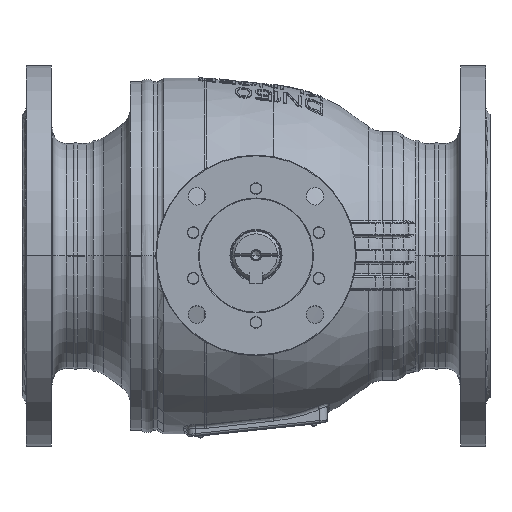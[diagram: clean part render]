
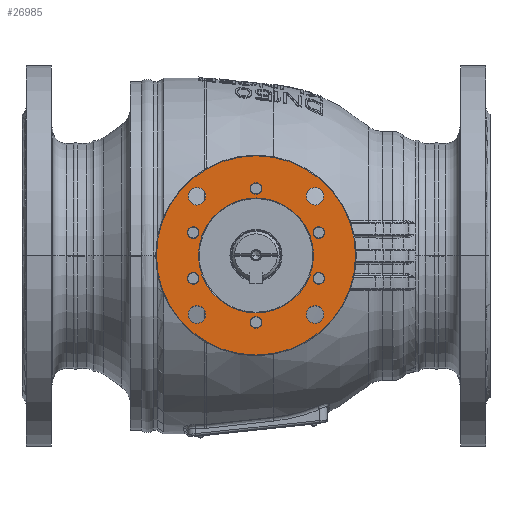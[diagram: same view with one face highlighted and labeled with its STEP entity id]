
A CAD part, top view. The second image highlights one B-rep face of the part: STEP entity #26985.
In plain terms, the highlighted planar face has unit normal (0, 0, 1).
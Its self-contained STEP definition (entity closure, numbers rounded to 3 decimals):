
#857=CARTESIAN_POINT('',(0.,0.,245.5));
#858=DIRECTION('',(0.,0.,1.));
#859=DIRECTION('',(1.,0.,0.));
#860=AXIS2_PLACEMENT_3D('',#857,#858,#859);
#862=CARTESIAN_POINT('',(0.,0.,245.5));
#863=DIRECTION('',(0.,0.,1.));
#864=DIRECTION('',(-1.,0.,0.));
#865=AXIS2_PLACEMENT_3D('',#862,#863,#864);
#867=CARTESIAN_POINT('',(44.194,44.194,245.5));
#868=DIRECTION('',(0.,0.,-1.));
#869=DIRECTION('',(-1.,0.,0.));
#870=AXIS2_PLACEMENT_3D('',#867,#868,#869);
#872=CARTESIAN_POINT('',(44.194,44.194,245.5));
#873=DIRECTION('',(0.,0.,-1.));
#874=DIRECTION('',(1.,0.,0.));
#875=AXIS2_PLACEMENT_3D('',#872,#873,#874);
#877=CARTESIAN_POINT('',(-44.194,44.194,245.5));
#878=DIRECTION('',(0.,0.,-1.));
#879=DIRECTION('',(-1.,0.,0.));
#880=AXIS2_PLACEMENT_3D('',#877,#878,#879);
#882=CARTESIAN_POINT('',(-44.194,44.194,245.5));
#883=DIRECTION('',(0.,0.,-1.));
#884=DIRECTION('',(1.,0.,0.));
#885=AXIS2_PLACEMENT_3D('',#882,#883,#884);
#887=CARTESIAN_POINT('',(-44.194,-44.194,245.5));
#888=DIRECTION('',(0.,0.,-1.));
#889=DIRECTION('',(-1.,0.,0.));
#890=AXIS2_PLACEMENT_3D('',#887,#888,#889);
#892=CARTESIAN_POINT('',(-44.194,-44.194,245.5));
#893=DIRECTION('',(0.,0.,-1.));
#894=DIRECTION('',(1.,0.,0.));
#895=AXIS2_PLACEMENT_3D('',#892,#893,#894);
#897=CARTESIAN_POINT('',(44.194,-44.194,245.5));
#898=DIRECTION('',(0.,0.,-1.));
#899=DIRECTION('',(-1.,0.,0.));
#900=AXIS2_PLACEMENT_3D('',#897,#898,#899);
#902=CARTESIAN_POINT('',(44.194,-44.194,245.5));
#903=DIRECTION('',(0.,0.,-1.));
#904=DIRECTION('',(1.,0.,0.));
#905=AXIS2_PLACEMENT_3D('',#902,#903,#904);
#907=CARTESIAN_POINT('',(46.985,17.101,245.5));
#908=DIRECTION('',(0.,0.,-1.));
#909=DIRECTION('',(-1.,0.,0.));
#910=AXIS2_PLACEMENT_3D('',#907,#908,#909);
#912=CARTESIAN_POINT('',(46.985,17.101,245.5));
#913=DIRECTION('',(0.,0.,-1.));
#914=DIRECTION('',(1.,0.,0.));
#915=AXIS2_PLACEMENT_3D('',#912,#913,#914);
#917=CARTESIAN_POINT('',(0.,50.,245.5));
#918=DIRECTION('',(0.,0.,-1.));
#919=DIRECTION('',(-1.,0.,0.));
#920=AXIS2_PLACEMENT_3D('',#917,#918,#919);
#922=CARTESIAN_POINT('',(0.,50.,245.5));
#923=DIRECTION('',(0.,0.,-1.));
#924=DIRECTION('',(1.,0.,0.));
#925=AXIS2_PLACEMENT_3D('',#922,#923,#924);
#927=CARTESIAN_POINT('',(-46.985,17.101,245.5));
#928=DIRECTION('',(0.,0.,-1.));
#929=DIRECTION('',(-1.,0.,0.));
#930=AXIS2_PLACEMENT_3D('',#927,#928,#929);
#932=CARTESIAN_POINT('',(-46.985,17.101,245.5));
#933=DIRECTION('',(0.,0.,-1.));
#934=DIRECTION('',(1.,0.,0.));
#935=AXIS2_PLACEMENT_3D('',#932,#933,#934);
#937=CARTESIAN_POINT('',(-46.985,-17.101,245.5));
#938=DIRECTION('',(0.,0.,-1.));
#939=DIRECTION('',(-1.,0.,0.));
#940=AXIS2_PLACEMENT_3D('',#937,#938,#939);
#942=CARTESIAN_POINT('',(-46.985,-17.101,245.5));
#943=DIRECTION('',(0.,0.,-1.));
#944=DIRECTION('',(1.,0.,0.));
#945=AXIS2_PLACEMENT_3D('',#942,#943,#944);
#947=CARTESIAN_POINT('',(0.,-50.,245.5));
#948=DIRECTION('',(0.,0.,-1.));
#949=DIRECTION('',(-1.,0.,0.));
#950=AXIS2_PLACEMENT_3D('',#947,#948,#949);
#952=CARTESIAN_POINT('',(0.,-50.,245.5));
#953=DIRECTION('',(0.,0.,-1.));
#954=DIRECTION('',(1.,0.,0.));
#955=AXIS2_PLACEMENT_3D('',#952,#953,#954);
#957=CARTESIAN_POINT('',(46.985,-17.101,245.5));
#958=DIRECTION('',(0.,0.,-1.));
#959=DIRECTION('',(-1.,0.,0.));
#960=AXIS2_PLACEMENT_3D('',#957,#958,#959);
#962=CARTESIAN_POINT('',(46.985,-17.101,245.5));
#963=DIRECTION('',(0.,0.,-1.));
#964=DIRECTION('',(1.,0.,0.));
#965=AXIS2_PLACEMENT_3D('',#962,#963,#964);
#967=CARTESIAN_POINT('',(0.,0.,245.5));
#968=DIRECTION('',(0.,0.,1.));
#969=DIRECTION('',(-1.,0.,0.));
#970=AXIS2_PLACEMENT_3D('',#967,#968,#969);
#972=CARTESIAN_POINT('',(0.,0.,245.5));
#973=DIRECTION('',(0.,0.,1.));
#974=DIRECTION('',(1.,0.,0.));
#975=AXIS2_PLACEMENT_3D('',#972,#973,#974);
#24954=CARTESIAN_POINT('',(37.694,44.194,245.5));
#24955=CARTESIAN_POINT('',(50.694,44.194,245.5));
#24956=VERTEX_POINT('',#24954);
#24957=VERTEX_POINT('',#24955);
#24962=CARTESIAN_POINT('',(-50.694,44.194,245.5));
#24963=CARTESIAN_POINT('',(-37.694,44.194,245.5));
#24964=VERTEX_POINT('',#24962);
#24965=VERTEX_POINT('',#24963);
#24970=CARTESIAN_POINT('',(-50.694,-44.194,245.5));
#24971=CARTESIAN_POINT('',(-37.694,-44.194,245.5));
#24972=VERTEX_POINT('',#24970);
#24973=VERTEX_POINT('',#24971);
#24978=CARTESIAN_POINT('',(37.694,-44.194,245.5));
#24979=CARTESIAN_POINT('',(50.694,-44.194,245.5));
#24980=VERTEX_POINT('',#24978);
#24981=VERTEX_POINT('',#24979);
#24998=CARTESIAN_POINT('',(-43.,0.,245.5));
#24999=CARTESIAN_POINT('',(43.,0.,245.5));
#25000=VERTEX_POINT('',#24998);
#25001=VERTEX_POINT('',#24999);
#25002=CARTESIAN_POINT('',(42.635,17.101,245.5));
#25003=CARTESIAN_POINT('',(51.335,17.101,245.5));
#25004=VERTEX_POINT('',#25002);
#25005=VERTEX_POINT('',#25003);
#25006=CARTESIAN_POINT('',(-4.35,50.,245.5));
#25007=CARTESIAN_POINT('',(4.35,50.,245.5));
#25008=VERTEX_POINT('',#25006);
#25009=VERTEX_POINT('',#25007);
#25010=CARTESIAN_POINT('',(-51.335,17.101,245.5));
#25011=CARTESIAN_POINT('',(-42.635,17.101,245.5));
#25012=VERTEX_POINT('',#25010);
#25013=VERTEX_POINT('',#25011);
#25014=CARTESIAN_POINT('',(-51.335,-17.101,245.5));
#25015=CARTESIAN_POINT('',(-42.635,-17.101,245.5));
#25016=VERTEX_POINT('',#25014);
#25017=VERTEX_POINT('',#25015);
#25018=CARTESIAN_POINT('',(-4.35,-50.,245.5));
#25019=CARTESIAN_POINT('',(4.35,-50.,245.5));
#25020=VERTEX_POINT('',#25018);
#25021=VERTEX_POINT('',#25019);
#25022=CARTESIAN_POINT('',(42.635,-17.101,245.5));
#25023=CARTESIAN_POINT('',(51.335,-17.101,245.5));
#25024=VERTEX_POINT('',#25022);
#25025=VERTEX_POINT('',#25023);
#25026=CARTESIAN_POINT('',(74.5,0.,245.5));
#25027=CARTESIAN_POINT('',(-74.5,0.,245.5));
#25028=VERTEX_POINT('',#25026);
#25029=VERTEX_POINT('',#25027);
#26910=CARTESIAN_POINT('',(0.,0.,245.5));
#26911=DIRECTION('',(0.,0.,-1.));
#26912=DIRECTION('',(-1.,0.,0.));
#26913=AXIS2_PLACEMENT_3D('',#26910,#26911,#26912);
#26914=PLANE('',#26913);
#26916=ORIENTED_EDGE('',*,*,#26915,.F.);
#26918=ORIENTED_EDGE('',*,*,#26917,.F.);
#26919=EDGE_LOOP('',(#26916,#26918));
#26920=FACE_OUTER_BOUND('',#26919,.F.);
#26922=ORIENTED_EDGE('',*,*,#26921,.F.);
#26924=ORIENTED_EDGE('',*,*,#26923,.F.);
#26925=EDGE_LOOP('',(#26922,#26924));
#26926=FACE_BOUND('',#26925,.F.);
#26928=ORIENTED_EDGE('',*,*,#26927,.F.);
#26930=ORIENTED_EDGE('',*,*,#26929,.F.);
#26931=EDGE_LOOP('',(#26928,#26930));
#26932=FACE_BOUND('',#26931,.F.);
#26934=ORIENTED_EDGE('',*,*,#26933,.F.);
#26936=ORIENTED_EDGE('',*,*,#26935,.F.);
#26937=EDGE_LOOP('',(#26934,#26936));
#26938=FACE_BOUND('',#26937,.F.);
#26940=ORIENTED_EDGE('',*,*,#26939,.F.);
#26942=ORIENTED_EDGE('',*,*,#26941,.F.);
#26943=EDGE_LOOP('',(#26940,#26942));
#26944=FACE_BOUND('',#26943,.F.);
#26946=ORIENTED_EDGE('',*,*,#26945,.F.);
#26948=ORIENTED_EDGE('',*,*,#26947,.F.);
#26949=EDGE_LOOP('',(#26946,#26948));
#26950=FACE_BOUND('',#26949,.F.);
#26952=ORIENTED_EDGE('',*,*,#26951,.F.);
#26954=ORIENTED_EDGE('',*,*,#26953,.F.);
#26955=EDGE_LOOP('',(#26952,#26954));
#26956=FACE_BOUND('',#26955,.F.);
#26958=ORIENTED_EDGE('',*,*,#26957,.F.);
#26960=ORIENTED_EDGE('',*,*,#26959,.F.);
#26961=EDGE_LOOP('',(#26958,#26960));
#26962=FACE_BOUND('',#26961,.F.);
#26964=ORIENTED_EDGE('',*,*,#26963,.F.);
#26966=ORIENTED_EDGE('',*,*,#26965,.F.);
#26967=EDGE_LOOP('',(#26964,#26966));
#26968=FACE_BOUND('',#26967,.F.);
#26970=ORIENTED_EDGE('',*,*,#26969,.F.);
#26972=ORIENTED_EDGE('',*,*,#26971,.F.);
#26973=EDGE_LOOP('',(#26970,#26972));
#26974=FACE_BOUND('',#26973,.F.);
#26976=ORIENTED_EDGE('',*,*,#26975,.F.);
#26978=ORIENTED_EDGE('',*,*,#26977,.F.);
#26979=EDGE_LOOP('',(#26976,#26978));
#26980=FACE_BOUND('',#26979,.F.);
#26981=ORIENTED_EDGE('',*,*,#26892,.T.);
#26982=ORIENTED_EDGE('',*,*,#26877,.T.);
#26983=EDGE_LOOP('',(#26981,#26982));
#26984=FACE_BOUND('',#26983,.F.);
#26985=ADVANCED_FACE('',(#26920,#26926,#26932,#26938,#26944,#26950,#26956,
#26962,#26968,#26974,#26980,#26984),#26914,.F.);
#861=CIRCLE('',#860,74.5);
#866=CIRCLE('',#865,74.5);
#871=CIRCLE('',#870,6.5);
#876=CIRCLE('',#875,6.5);
#881=CIRCLE('',#880,6.5);
#886=CIRCLE('',#885,6.5);
#891=CIRCLE('',#890,6.5);
#896=CIRCLE('',#895,6.5);
#901=CIRCLE('',#900,6.5);
#906=CIRCLE('',#905,6.5);
#911=CIRCLE('',#910,4.35);
#916=CIRCLE('',#915,4.35);
#921=CIRCLE('',#920,4.35);
#926=CIRCLE('',#925,4.35);
#931=CIRCLE('',#930,4.35);
#936=CIRCLE('',#935,4.35);
#941=CIRCLE('',#940,4.35);
#946=CIRCLE('',#945,4.35);
#951=CIRCLE('',#950,4.35);
#956=CIRCLE('',#955,4.35);
#961=CIRCLE('',#960,4.35);
#966=CIRCLE('',#965,4.35);
#971=CIRCLE('',#970,43.);
#976=CIRCLE('',#975,43.);
#26877=EDGE_CURVE('',#25001,#25000,#976,.T.);
#26892=EDGE_CURVE('',#25000,#25001,#971,.T.);
#26915=EDGE_CURVE('',#25028,#25029,#861,.T.);
#26917=EDGE_CURVE('',#25029,#25028,#866,.T.);
#26921=EDGE_CURVE('',#24956,#24957,#871,.T.);
#26923=EDGE_CURVE('',#24957,#24956,#876,.T.);
#26927=EDGE_CURVE('',#24964,#24965,#881,.T.);
#26929=EDGE_CURVE('',#24965,#24964,#886,.T.);
#26933=EDGE_CURVE('',#24972,#24973,#891,.T.);
#26935=EDGE_CURVE('',#24973,#24972,#896,.T.);
#26939=EDGE_CURVE('',#24980,#24981,#901,.T.);
#26941=EDGE_CURVE('',#24981,#24980,#906,.T.);
#26945=EDGE_CURVE('',#25004,#25005,#911,.T.);
#26947=EDGE_CURVE('',#25005,#25004,#916,.T.);
#26951=EDGE_CURVE('',#25008,#25009,#921,.T.);
#26953=EDGE_CURVE('',#25009,#25008,#926,.T.);
#26957=EDGE_CURVE('',#25012,#25013,#931,.T.);
#26959=EDGE_CURVE('',#25013,#25012,#936,.T.);
#26963=EDGE_CURVE('',#25016,#25017,#941,.T.);
#26965=EDGE_CURVE('',#25017,#25016,#946,.T.);
#26969=EDGE_CURVE('',#25020,#25021,#951,.T.);
#26971=EDGE_CURVE('',#25021,#25020,#956,.T.);
#26975=EDGE_CURVE('',#25024,#25025,#961,.T.);
#26977=EDGE_CURVE('',#25025,#25024,#966,.T.);
